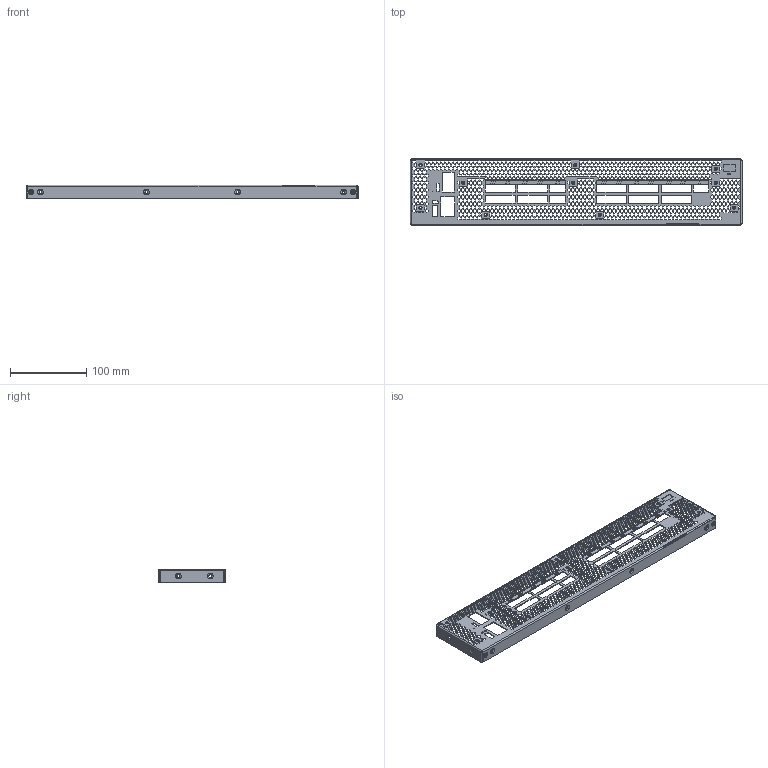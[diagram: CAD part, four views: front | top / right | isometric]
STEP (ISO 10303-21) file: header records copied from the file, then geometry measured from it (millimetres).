
FILE_DESCRIPTION((''),'2;1');
FILE_NAME('0_LC_FRONT_BEZEL_2U_J2_NCP-2','2019-12-16T',('830923'),('Rior'),'CREO PARAMETRIC BY PTC INC, 2015480','CREO PARAMETRIC BY PTC INC, 2015480','');
FILE_SCHEMA(('CONFIG_CONTROL_DESIGN'));
Products named in the file (9): LC_FRONT_BEZEL_2U_NCP-2_1013_V2; RVT_POP_SKK3030PT; MYLAR_NCP2-1_L; MYLAR_NCP2-1_R; PEM_SMPS-M3_NUT; HOLDER_BLED_BD_NCP2-1_SM; LED_OVERLAY_LABEL_NCP2; APOLLO-NCP2-1-_20181011-V03-F; 0_LC_FRONT_BEZEL_2U_J2_NCP-2
Assembly tree (20 placements, depth 2):
  0_LC_FRONT_BEZEL_2U_J2_NCP-2
    LC_FRONT_BEZEL_2U_NCP-2_1013_V2
    RVT_POP_SKK3030PT  x4
    MYLAR_NCP2-1_L
    MYLAR_NCP2-1_R
    PEM_SMPS-M3_NUT  x10
    HOLDER_BLED_BD_NCP2-1_SM
    LED_OVERLAY_LABEL_NCP2
    APOLLO-NCP2-1-_20181011-V03-F
Bounding box: 436 x 87.7 x 18.25 mm (x, y, z)
Volume: 46991.6 mm3; surface area: 101491.5 mm2
Topology: 19 solids, 44 shells, 5593 faces, 16452 edges, 10934 vertices
Faces by surface type: plane 5125, cylinder 308, cone 152, torus 8
Entity records: 180776 total; most frequent: CARTESIAN_POINT 32073, ORIENTED_EDGE 31858, DIRECTION 27310, EDGE_CURVE 16002, VECTOR 15496, LINE 15496, VERTEX_POINT 10670, EDGE_LOOP 7238
